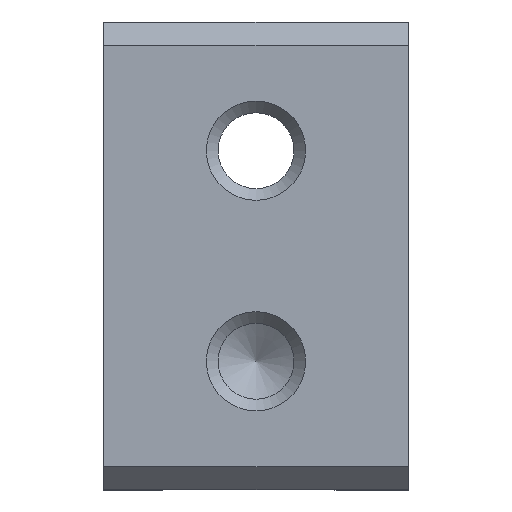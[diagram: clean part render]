
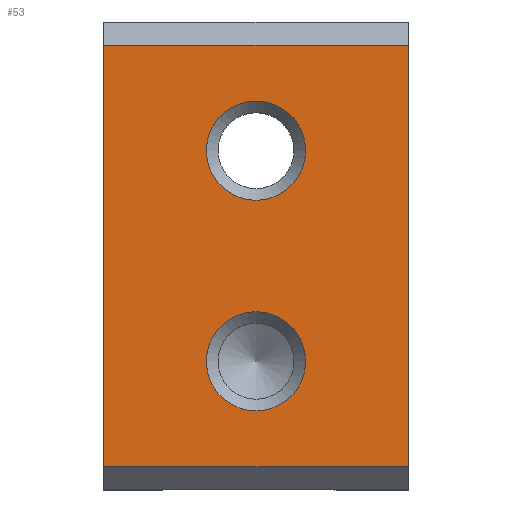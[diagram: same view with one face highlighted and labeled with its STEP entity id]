
A CAD part, front view. The second image highlights one B-rep face of the part: STEP entity #53.
In plain terms, the highlighted planar face has unit normal (0, -1, 0).
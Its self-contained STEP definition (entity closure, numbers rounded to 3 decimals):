
#53=ADVANCED_FACE('',(#287,#289,#291),#293,.T.);
#287=FACE_BOUND('',#288,.T.);
#288=EDGE_LOOP('',(#499,#500,#501,#502));
#289=FACE_BOUND('',#290,.T.);
#290=EDGE_LOOP('',(#503));
#291=FACE_BOUND('',#292,.T.);
#292=EDGE_LOOP('',(#504));
#293=PLANE('',#294);
#294=AXIS2_PLACEMENT_3D('',#295,#296,#297);
#295=CARTESIAN_POINT('',(-13.,0.,20.));
#296=DIRECTION('',(0.,-1.,0.));
#297=DIRECTION('',(0.,0.,-1.));
#499=ORIENTED_EDGE('',*,*,#613,.T.);
#500=ORIENTED_EDGE('',*,*,#614,.F.);
#501=ORIENTED_EDGE('',*,*,#615,.F.);
#502=ORIENTED_EDGE('',*,*,#616,.T.);
#503=ORIENTED_EDGE('',*,*,#617,.T.);
#504=ORIENTED_EDGE('',*,*,#618,.T.);
#613=EDGE_CURVE('',#670,#671,#672,.T.);
#614=EDGE_CURVE('',#673,#671,#674,.T.);
#615=EDGE_CURVE('',#675,#673,#676,.T.);
#616=EDGE_CURVE('',#675,#670,#677,.T.);
#617=EDGE_CURVE('',#678,#678,#679,.F.);
#618=EDGE_CURVE('',#680,#680,#681,.F.);
#670=VERTEX_POINT('',#769);
#671=VERTEX_POINT('',#770);
#672=LINE('',#771,#772);
#673=VERTEX_POINT('',#774);
#674=LINE('',#775,#776);
#675=VERTEX_POINT('',#778);
#676=LINE('',#779,#780);
#677=LINE('',#782,#783);
#678=VERTEX_POINT('',#785);
#679=CIRCLE('',#786,2.121);
#680=VERTEX_POINT('',#790);
#681=CIRCLE('',#791,2.121);
#769=CARTESIAN_POINT('',(-13.,0.,1.));
#770=CARTESIAN_POINT('',(0.,0.,1.));
#771=CARTESIAN_POINT('',(-13.,0.,1.));
#772=VECTOR('',#773,1.);
#773=DIRECTION('',(1.,0.,0.));
#774=CARTESIAN_POINT('',(0.,0.,19.));
#775=CARTESIAN_POINT('',(0.,0.,19.));
#776=VECTOR('',#777,1.);
#777=DIRECTION('',(0.,0.,-1.));
#778=CARTESIAN_POINT('',(-13.,0.,19.));
#779=CARTESIAN_POINT('',(-13.,0.,19.));
#780=VECTOR('',#781,1.);
#781=DIRECTION('',(1.,0.,0.));
#782=CARTESIAN_POINT('',(-13.,0.,19.));
#783=VECTOR('',#784,1.);
#784=DIRECTION('',(0.,0.,-1.));
#785=CARTESIAN_POINT('',(-6.5,0.,3.379));
#786=AXIS2_PLACEMENT_3D('',#787,#788,#789);
#787=CARTESIAN_POINT('',(-6.5,0.,5.5));
#788=DIRECTION('',(0.,-1.,0.));
#789=DIRECTION('',(0.,0.,-1.));
#790=CARTESIAN_POINT('',(-6.5,0.,12.379));
#791=AXIS2_PLACEMENT_3D('',#792,#793,#794);
#792=CARTESIAN_POINT('',(-6.5,0.,14.5));
#793=DIRECTION('',(0.,-1.,0.));
#794=DIRECTION('',(0.,0.,-1.));
